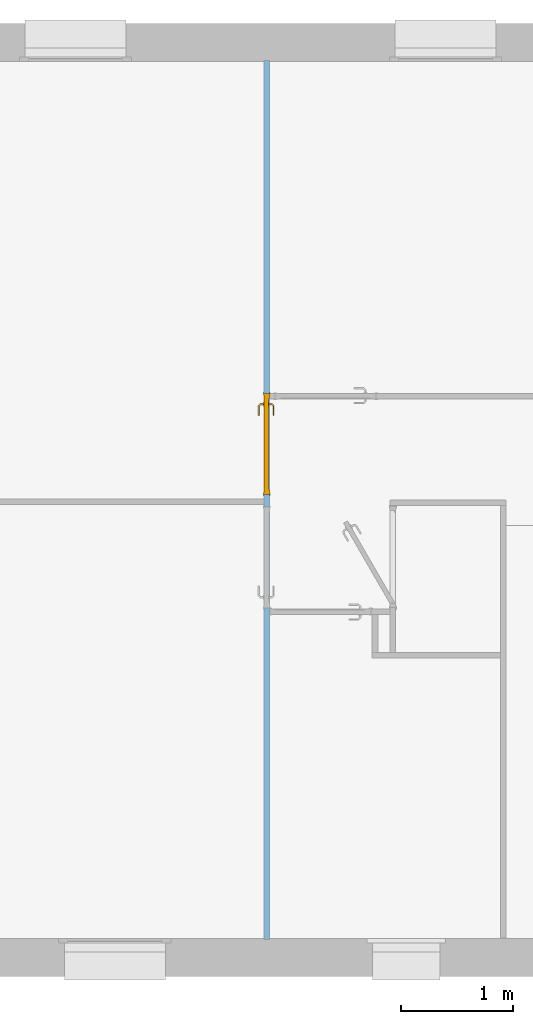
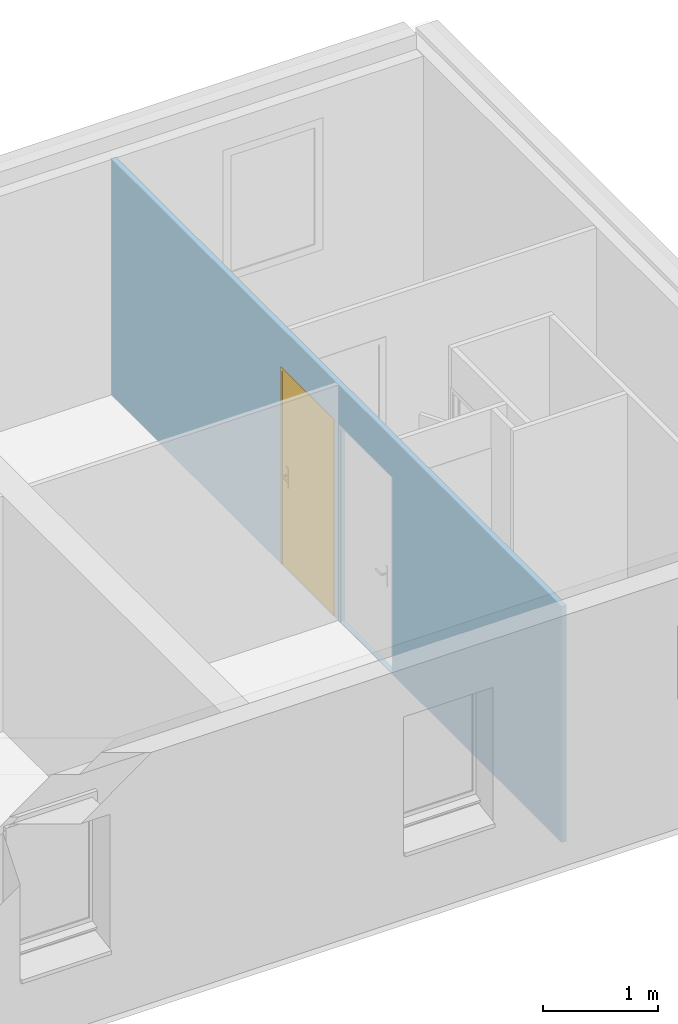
# One storey, part 9 of 13: 1 door, 3 openings, plus 1 element that does not belong to this part.
"""IFC2X3 building model written with IfcOpenShell, lengths in metres."""

from ifc_helpers import new_model, entity, si_unit, converted_unit, derived_unit, direction, frame, frame_2d, origin, place, context, subcontext, project, spatial, rectangle, extrude, faceted_brep, source, transform, mapped, material, material_list, layer, layer_set, layer_usage, type_object, type_shapes, element, fill, save


model = new_model("IFC2X3")

# Units and contexts
model_context = context("Model", 3, precision=1e-05, world=origin(), true_north=direction((6.12303176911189e-17, 1.0)))
body_context = subcontext(model_context, "Body", "Model", "MODEL_VIEW")
ifc_project = project(units=[si_unit("LENGTHUNIT", "METRE"), si_unit("AREAUNIT", "SQUARE_METRE"), si_unit("VOLUMEUNIT", "CUBIC_METRE"), converted_unit("PLANEANGLEUNIT", "DEGREE", entity("IfcRatioMeasure", 0.0174532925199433), si_unit("PLANEANGLEUNIT", "RADIAN"), dimensions=[0, 0, 0, 0, 0, 0, 0]), si_unit("MASSUNIT", "GRAM", prefix="KILO"), si_unit("TIMEUNIT", "SECOND"), si_unit("FREQUENCYUNIT", "HERTZ"), si_unit("THERMODYNAMICTEMPERATUREUNIT", "DEGREE_CELSIUS"), derived_unit("THERMALTRANSMITTANCEUNIT", [(si_unit("MASSUNIT", "GRAM", prefix="KILO"), 1), (si_unit("THERMODYNAMICTEMPERATUREUNIT", "KELVIN"), -1), (si_unit("TIMEUNIT", "SECOND"), -3)]), derived_unit("VOLUMETRICFLOWRATEUNIT", [(si_unit("LENGTHUNIT", "METRE"), 3), (si_unit("TIMEUNIT", "SECOND"), -1)]), si_unit("ELECTRICCURRENTUNIT", "AMPERE"), si_unit("ELECTRICVOLTAGEUNIT", "VOLT"), si_unit("POWERUNIT", "WATT"), si_unit("FORCEUNIT", "NEWTON", prefix="KILO"), si_unit("ILLUMINANCEUNIT", "LUX"), si_unit("LUMINOUSFLUXUNIT", "LUMEN"), si_unit("LUMINOUSINTENSITYUNIT", "CANDELA"), derived_unit("USERDEFINED", [(si_unit("MASSUNIT", "GRAM", prefix="KILO"), -1), (si_unit("LENGTHUNIT", "METRE"), -2), (si_unit("TIMEUNIT", "SECOND"), 3), (si_unit("LUMINOUSFLUXUNIT", "LUMEN"), 1)]), derived_unit("LINEARVELOCITYUNIT", [(si_unit("LENGTHUNIT", "METRE"), 1), (si_unit("TIMEUNIT", "SECOND"), -1)]), si_unit("PRESSUREUNIT", "PASCAL"), derived_unit("USERDEFINED", [(si_unit("LENGTHUNIT", "METRE"), -2), (si_unit("MASSUNIT", "GRAM", prefix="KILO"), 1), (si_unit("TIMEUNIT", "SECOND"), -2)])], contexts=[model_context])

# Site, building, storey
site_placement = place(None, origin())
site = spatial("IfcSite", under=ifc_project, at=site_placement, Name="Surface", CompositionType="ELEMENT")
building_placement = place(site_placement, origin())
building = spatial("IfcBuilding", under=site, at=building_placement, CompositionType="ELEMENT")
storey_placement = place(building_placement, frame((0.0, 0.0, 2.74)))
storey = spatial("IfcBuildingStorey", under=building, at=storey_placement, Name="Plan étage", CompositionType="ELEMENT", Elevation=2.74)

# Wall, openings, door
ifc_material_1 = material(Name="Maçonnerie - Isolant(1)")
ifc_layer = layer(ifc_material_1, 0.05)
ifc_layer_set = layer_set([ifc_layer], Name="Mur de base:Int. plâtre 50 mm")
ifc_layer_usage = layer_usage(ifc_layer_set, "AXIS2", "NEGATIVE", 0.025)
wall_type = type_object("IfcWallType", Name="Mur de base:Int. plâtre 50 mm", PredefinedType="STANDARD", material=ifc_layer_set)
wall_placement = place(storey_placement, frame((-1.68108881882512, 5.35425578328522, -0.00999999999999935), z_axis=(0.0, 0.0, 1.0), x_axis=(0.0, -1.0, 0.0)))
wall = element("IfcWallStandardCase", 1, at=wall_placement, inside=storey, type_object=wall_type, material=ifc_layer_usage, Name="Mur de base:Int. plâtre 50 mm", ObjectType="Mur de base:Int. plâtre 50 mm", context=body_context, shape_type="SweptSolid", body=[
    extrude(rectangle(XDim=7.84000000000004, YDim=0.05, at=frame_2d((3.92000000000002, 0.0), x_axis=(-1.0, 0.0))), origin(), (0.0, 0.0, 1.0), 2.51),
])
opening_1_placement = place(wall_placement, origin())
element("IfcOpeningElement", 2, at=opening_1_placement, cuts=wall, Name="Mur de base:Int. plâtre 50 mm", ObjectType="Opening", context=body_context, shape_type="SweptSolid", body=[
    extrude(rectangle(XDim=2.075, YDim=0.05, at=frame_2d((0.0, 3.33066907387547e-16), x_axis=(0.0, 1.0))), frame((4.915, 0.0274999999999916, 1.0475), z_axis=(0.0, 1.0, 0.0), x_axis=(1.0, 0.0, 0.0)), (0.0, 0.0, 1.0), 0.9),
])
opening_2_placement = place(wall_placement, frame((4.8825, 0.025, 0.00999999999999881)))
element("IfcOpeningElement", 3, at=opening_2_placement, cuts=wall, Name="Int. Simple:PP (0.83m x 2.04m):1", ObjectType="Opening", context=body_context, shape_type="SweptSolid", body=[
    extrude(rectangle(XDim=2.075, YDim=0.9, at=frame_2d((1.0375, 0.45), x_axis=(1.0, 0.0))), frame((0.0, 0.0, 0.0), z_axis=(0.0, -1.0, 0.0), x_axis=(0.0, 0.0, 1.0)), (0.0, 0.0, 1.0), 0.05),
])
opening_3_placement = place(wall_placement, frame((3.87, 0.025, 0.00999999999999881)))
opening_3 = element("IfcOpeningElement", 4, at=opening_3_placement, cuts=wall, Name="Int. Simple:PP (0.83m x 2.04m):1", ObjectType="Opening", context=body_context, shape_type="SweptSolid", body=[
    extrude(rectangle(XDim=2.075, YDim=0.9, at=frame_2d((1.0375, 0.45), x_axis=(1.0, 0.0))), frame((0.0, 0.0, 0.0), z_axis=(0.0, -1.0, 0.0), x_axis=(0.0, 0.0, 1.0)), (0.0, 0.0, 1.0), 0.05),
])
ifc_material_2 = material(Name="Finition Peinture - Blanc satiné")
ifc_material_3 = material(Name="Bois - Panneau de porte")
ifc_material_4 = material(Name="Bois - Cadre de porte")
ifc_material_list_1 = material_list([ifc_material_2, ifc_material_3, ifc_material_4])
ifc_material_list_2 = material_list([ifc_material_2, ifc_material_3, ifc_material_4])
door_style = type_object("IfcDoorStyle", Name="PP (0.83m x 2.04m)", ConstructionType="NOTDEFINED", OperationType="SINGLE_SWING_LEFT", ParameterTakesPrecedence=False, Sizeable=False, material=ifc_material_list_2)
shared_shape = source(origin(), body_context, "Body", "Brep", [
    faceted_brep([(0.105352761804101, -0.00500000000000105, 0.866003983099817), (0.115, -0.00500000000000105, 0.870000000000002), (0.114999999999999, -0.00500000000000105, 1.08), (0.1053527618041, -0.00500000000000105, 1.08399601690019), (0.0949999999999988, -0.00500000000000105, 1.08535898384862), (0.0846472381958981, -0.00500000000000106, 1.08399601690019), (0.0749999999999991, -0.00500000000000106, 1.08), (0.0750000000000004, -0.00500000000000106, 0.870000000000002), (0.0846472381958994, -0.00500000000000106, 0.866003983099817), (0.0950000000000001, -0.00500000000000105, 0.86464101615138), (0.1053527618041, 0.0, 1.08399601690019), (0.114999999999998, 0.0, 1.08), (0.115, 0.0, 0.870000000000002), (0.105352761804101, 0.0, 0.866003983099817), (0.0950000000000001, 0.0, 0.86464101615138), (0.0846472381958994, 0.0, 0.866003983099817), (0.0749999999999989, 0.0, 0.870000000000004), (0.0749999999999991, 0.0, 1.08), (0.0846472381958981, 0.0, 1.08399601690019), (0.0949999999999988, 0.0, 1.08535898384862)], [[[0, 1, 2, 3, 4, 5, 6, 7, 8, 9]], [[10, 11, 12, 13, 14, 15, 16, 17, 18, 19]], [[16, 15, 8, 7]], [[8, 15, 14, 9]], [[14, 13, 0, 9]], [[13, 12, 1, 0]], [[2, 1, 12, 11]], [[11, 10, 3, 2]], [[3, 10, 19, 4]], [[19, 18, 5, 4]], [[18, 17, 6, 5]], [[7, 6, 17, 16]]]),
    faceted_brep([(0.105352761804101, 0.0399999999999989, 0.866003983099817), (0.115, 0.0399999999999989, 0.870000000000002), (0.114999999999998, 0.0399999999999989, 1.08), (0.105352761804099, 0.0399999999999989, 1.08399601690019), (0.0949999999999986, 0.0399999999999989, 1.08535898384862), (0.084647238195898, 0.0399999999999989, 1.08399601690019), (0.0749999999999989, 0.0399999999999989, 1.08), (0.0750000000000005, 0.0399999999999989, 0.870000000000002), (0.0846472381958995, 0.0399999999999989, 0.866003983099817), (0.0950000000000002, 0.0399999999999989, 0.86464101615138), (0.105352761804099, 0.0449999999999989, 1.08399601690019), (0.114999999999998, 0.0449999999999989, 1.08), (0.115, 0.0449999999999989, 0.870000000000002), (0.105352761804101, 0.0449999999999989, 0.866003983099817), (0.0950000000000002, 0.0449999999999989, 0.86464101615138), (0.0846472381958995, 0.0449999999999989, 0.866003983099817), (0.0749999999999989, 0.0449999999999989, 0.870000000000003), (0.0749999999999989, 0.0449999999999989, 1.08), (0.084647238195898, 0.0449999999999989, 1.08399601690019), (0.0949999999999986, 0.0449999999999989, 1.08535898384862)], [[[0, 1, 2, 3, 4, 5, 6, 7, 8, 9]], [[10, 11, 12, 13, 14, 15, 16, 17, 18, 19]], [[11, 10, 3, 2]], [[3, 10, 19, 4]], [[19, 18, 5, 4]], [[18, 17, 6, 5]], [[7, 6, 17, 16]], [[16, 15, 8, 7]], [[8, 15, 14, 9]], [[14, 13, 0, 9]], [[13, 12, 1, 0]], [[2, 1, 12, 11]]]),
    faceted_brep([(0.0929747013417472, -0.00500000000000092, 1.00778044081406), (0.0970252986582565, -0.0050000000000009, 1.00778044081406), (0.101000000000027, -0.00500000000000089, 1.00699999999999), (0.101000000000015, -0.00500000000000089, 0.993000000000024), (0.0970252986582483, -0.0050000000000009, 0.992219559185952), (0.0929747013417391, -0.00500000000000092, 0.99221955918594), (0.0889999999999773, -0.00500000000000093, 0.992999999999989), (0.0889999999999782, -0.00500000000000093, 1.007), (0.0889999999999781, -0.0326509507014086, 1.007), (0.092974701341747, -0.0310045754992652, 1.00778044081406), (0.10902358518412, -0.0470534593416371, 1.00778044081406), (0.110701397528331, -0.0430028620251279, 1.00778044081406), (0.0970252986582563, -0.0293267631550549, 1.00778044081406), (0.101000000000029, -0.0276803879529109, 1.007), (0.101000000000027, -0.0276803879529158, 0.993000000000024), (0.0970252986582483, -0.0293267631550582, 0.992219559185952), (0.110701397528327, -0.0430028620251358, 0.992219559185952), (0.109023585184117, -0.047053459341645, 0.99221955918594), (0.0929747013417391, -0.0310045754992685, 0.99221955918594), (0.0889999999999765, -0.0326509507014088, 0.992999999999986), (0.107377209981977, -0.0510281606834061, 1.007), (0.112347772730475, -0.0390281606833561, 1.007), (0.112347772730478, -0.0390281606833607, 0.993000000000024), (0.107377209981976, -0.0510281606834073, 0.992999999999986), (0.195018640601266, -0.0510281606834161, 0.992999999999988), (0.195018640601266, -0.0470534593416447, 0.99221955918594), (0.195018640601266, -0.0430028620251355, 0.992219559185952), (0.195018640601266, -0.039028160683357, 0.993000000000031), (0.195018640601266, -0.0390281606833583, 1.007), (0.195018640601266, -0.0430028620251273, 1.00778044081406), (0.195018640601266, -0.0470534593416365, 1.00778044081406), (0.195018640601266, -0.0510281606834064, 1.00699999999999), (0.147307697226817, -0.0510281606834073, 1.007), (0.152860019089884, -0.045028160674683, 1.0078786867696), (0.15368320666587, -0.039028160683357, 1.007), (0.153683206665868, -0.0390281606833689, 0.993000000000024), (0.152860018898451, -0.0450281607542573, 0.992121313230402), (0.147307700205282, -0.0510281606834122, 0.992999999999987)], [[[0, 1, 2, 3, 4, 5, 6, 7]], [[8, 9, 0, 7]], [[9, 10, 11, 12, 1, 0]], [[12, 13, 2, 1]], [[3, 2, 13, 14]], [[14, 15, 4, 3]], [[15, 16, 17, 18, 5, 4]], [[18, 19, 6, 5]], [[7, 6, 19, 8]], [[20, 10, 9, 8]], [[11, 21, 13, 12]], [[14, 13, 21, 22]], [[22, 16, 15, 14]], [[17, 23, 19, 18]], [[8, 19, 23, 20]], [[24, 25, 26, 27, 28, 29, 30, 31]], [[32, 30, 33]], [[31, 30, 32]], [[10, 20, 32]], [[33, 34, 11]], [[21, 11, 34]], [[34, 29, 28]], [[30, 29, 33]], [[29, 34, 33]], [[10, 32, 33]], [[10, 33, 11]], [[22, 21, 34, 28, 27, 35]], [[35, 26, 36]], [[37, 36, 25]], [[22, 35, 16]], [[35, 27, 26]], [[24, 37, 25]], [[23, 17, 37]], [[37, 17, 36]], [[17, 16, 36]], [[16, 35, 36]], [[25, 36, 26]], [[20, 23, 37, 24, 31, 32]]]),
    faceted_brep([(0.0929747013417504, 0.0449999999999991, 1.00778044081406), (0.0889999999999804, 0.044999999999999, 1.007), (0.0889999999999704, 0.044999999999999, 0.992999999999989), (0.0929747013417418, 0.0449999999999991, 0.99221955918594), (0.0970252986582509, 0.0449999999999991, 0.992219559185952), (0.10100000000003, 0.0449999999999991, 0.993000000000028), (0.101000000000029, 0.0449999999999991, 1.007), (0.0970252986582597, 0.0449999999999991, 1.00778044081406), (0.10100000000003, 0.067485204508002, 0.993000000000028), (0.10100000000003, 0.0674852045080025, 1.007), (0.0970252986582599, 0.0691315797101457, 1.00778044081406), (0.110838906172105, 0.0829451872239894, 1.00778044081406), (0.109161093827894, 0.0869957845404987, 1.00778044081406), (0.0929747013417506, 0.070809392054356, 1.00778044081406), (0.0889999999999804, 0.0724557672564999, 1.007), (0.0889999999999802, 0.072455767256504, 0.992999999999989), (0.0929747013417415, 0.0708093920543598, 0.99221955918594), (0.109161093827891, 0.0869957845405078, 0.99221955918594), (0.110838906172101, 0.0829451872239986, 0.992219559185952), (0.0970252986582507, 0.0691315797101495, 0.992219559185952), (0.112485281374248, 0.0789704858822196, 0.993000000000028), (0.112485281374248, 0.0789704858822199, 1.007), (0.107514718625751, 0.0909704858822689, 1.007), (0.107514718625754, 0.090970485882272, 0.992999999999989), (0.195045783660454, 0.0789704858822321, 0.993000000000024), (0.195045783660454, 0.0829451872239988, 0.992219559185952), (0.195045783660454, 0.086995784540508, 0.99221955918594), (0.195045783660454, 0.0909704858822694, 0.992999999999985), (0.195045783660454, 0.0909704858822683, 1.007), (0.195045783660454, 0.0869957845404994, 1.00778044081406), (0.195045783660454, 0.0829451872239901, 1.00778044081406), (0.195045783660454, 0.0789704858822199, 1.007), (0.153765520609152, 0.0789704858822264, 0.993000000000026), (0.153765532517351, 0.0789704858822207, 1.007), (0.152942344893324, 0.0849704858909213, 1.0078786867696), (0.147445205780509, 0.0909704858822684, 1.007), (0.147445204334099, 0.0909704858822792, 0.992999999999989), (0.152942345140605, 0.0849704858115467, 0.992121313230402)], [[[0, 1, 2, 3, 4, 5, 6, 7]], [[6, 5, 8, 9]], [[9, 10, 7, 6]], [[10, 11, 12, 13, 0, 7]], [[13, 14, 1, 0]], [[2, 1, 14, 15]], [[15, 16, 3, 2]], [[16, 17, 18, 19, 4, 3]], [[19, 8, 5, 4]], [[9, 8, 20, 21]], [[21, 11, 10, 9]], [[12, 22, 14, 13]], [[15, 14, 22, 23]], [[23, 17, 16, 15]], [[18, 20, 8, 19]], [[24, 25, 26, 27, 28, 29, 30, 31]], [[21, 20, 32, 24, 31, 33]], [[33, 30, 34]], [[35, 34, 29]], [[21, 33, 11]], [[33, 31, 30]], [[28, 35, 29]], [[22, 12, 35]], [[35, 12, 34]], [[12, 11, 34]], [[11, 33, 34]], [[29, 34, 30]], [[22, 35, 28, 27, 36, 23]], [[36, 26, 37]], [[27, 26, 36]], [[17, 23, 36]], [[37, 32, 18]], [[20, 18, 32]], [[32, 25, 24]], [[26, 25, 37]], [[25, 32, 37]], [[17, 36, 37]], [[17, 37, 18]]]),
    faceted_brep([(0.034999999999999, 0.04, 2.04), (0.865, 0.04, 2.04), (0.864999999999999, 0.04, 0.0), (0.034999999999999, 0.04, 0.0), (0.034999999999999, 0.0, 2.04), (0.034999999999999, 0.0, 0.0), (0.864999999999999, 0.0, 0.0), (0.865, 0.0, 2.04)], [[[0, 1, 2, 3]], [[4, 5, 6, 7]], [[1, 0, 4, 7]], [[2, 1, 7, 6]], [[3, 2, 6, 5]], [[0, 3, 5, 4]]]),
    faceted_brep([(0.0, 0.0, 0.0), (0.0, 0.050000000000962, 0.0), (0.0499999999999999, 0.050000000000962, 0.0), (0.0499999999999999, 0.040000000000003, 0.0), (0.0349999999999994, 0.040000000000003, 0.0), (0.0349999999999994, 0.0, 0.0), (0.0, 0.0, 2.07500000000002), (0.0, 0.050000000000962, 2.07500000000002), (0.900000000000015, 0.050000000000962, 2.07500000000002), (0.900000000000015, 0.050000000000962, 0.0), (0.85, 0.050000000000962, 0.0), (0.85, 0.050000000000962, 2.025), (0.0500000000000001, 0.050000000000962, 2.025), (0.05, 0.040000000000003, 2.025), (0.85, 0.040000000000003, 2.025), (0.85, 0.040000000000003, 0.0), (0.865, 0.040000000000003, 0.0), (0.865, 0.040000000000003, 2.04), (0.0349999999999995, 0.040000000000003, 2.04), (0.0349999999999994, 0.0, 2.04), (0.865, 0.0, 2.04), (0.865, 0.0, 0.0), (0.900000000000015, 0.0, 0.0), (0.900000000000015, 0.0, 2.07500000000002)], [[[0, 1, 2, 3, 4, 5]], [[1, 0, 6, 7]], [[2, 1, 7, 8, 9, 10, 11, 12]], [[3, 2, 12, 13]], [[4, 3, 13, 14, 15, 16, 17, 18]], [[5, 4, 18, 19]], [[0, 5, 19, 20, 21, 22, 23, 6]], [[8, 23, 22, 9]], [[22, 21, 16, 15, 10, 9]], [[14, 11, 10, 15]], [[20, 17, 16, 21]], [[7, 6, 23, 8]], [[13, 12, 11, 14]], [[19, 18, 17, 20]]]),
    faceted_brep([(0.0149999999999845, 0.050000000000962, 0.0), (-0.0150000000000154, 0.050000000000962, 0.0), (-0.0150000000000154, 0.055000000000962, 0.0), (0.0149999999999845, 0.055000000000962, 0.0), (0.0149999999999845, 0.050000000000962, 2.06000000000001), (0.884999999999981, 0.050000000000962, 2.06000000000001), (0.88499999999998, 0.050000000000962, 0.0), (0.91499999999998, 0.050000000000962, 0.0), (0.91499999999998, 0.050000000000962, 2.09000000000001), (-0.0150000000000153, 0.050000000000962, 2.09000000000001), (-0.0150000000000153, 0.055000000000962, 2.09000000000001), (0.91499999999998, 0.055000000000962, 2.09000000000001), (0.91499999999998, 0.055000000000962, 0.0), (0.88499999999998, 0.055000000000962, 0.0), (0.88499999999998, 0.055000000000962, 2.06000000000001), (0.0149999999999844, 0.055000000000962, 2.06000000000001)], [[[0, 1, 2, 3]], [[1, 0, 4, 5, 6, 7, 8, 9]], [[2, 1, 9, 10]], [[3, 2, 10, 11, 12, 13, 14, 15]], [[0, 3, 15, 4]], [[6, 13, 12, 7]], [[5, 14, 13, 6]], [[11, 8, 7, 12]], [[10, 9, 8, 11]], [[4, 15, 14, 5]]]),
    faceted_brep([(-0.0150000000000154, -0.005, 0.0), (0.0149999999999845, -0.005, 0.0), (0.0149999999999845, -0.005, 2.06000000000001), (0.884999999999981, -0.005, 2.06000000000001), (0.88499999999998, -0.005, 0.0), (0.91499999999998, -0.005, 0.0), (0.91499999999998, -0.005, 2.09000000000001), (-0.0150000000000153, -0.005, 2.09000000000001), (-0.0150000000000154, 0.0, 0.0), (-0.0150000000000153, 0.0, 2.09000000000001), (0.0149999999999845, 0.0, 0.0), (0.91499999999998, 0.0, 2.09000000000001), (0.91499999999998, 0.0, 0.0), (0.88499999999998, 0.0, 0.0), (0.88499999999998, 0.0, 2.06000000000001), (0.0149999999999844, 0.0, 2.06000000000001)], [[[0, 1, 2, 3, 4, 5, 6, 7]], [[8, 0, 7, 9]], [[10, 8, 9, 11, 12, 13, 14, 15]], [[1, 10, 15, 2]], [[3, 14, 13, 4]], [[11, 6, 5, 12]], [[9, 7, 6, 11]], [[2, 15, 14, 3]], [[4, 13, 12, 5]], [[1, 0, 8, 10]]]),
])
type_shapes(door_style, [shared_shape])
door_placement = place(opening_3_placement, frame((-0.9, -0.0499999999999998, 0.0)))
door = element("IfcDoor", 5, at=door_placement, inside=storey, type_object=door_style, material=ifc_material_list_1, Name="Int. Simple:PP (0.83m x 2.04m)", ObjectType="PP (0.83m x 2.04m)", OverallHeight=2.075, OverallWidth=0.9, context=body_context, shape_type="MappedRepresentation", body=[
    mapped(shared_shape, transform((0.0, 0.0, 0.0), scale=1.0)),
])
fill(opening_3, door)

save(model, "model.ifc")
